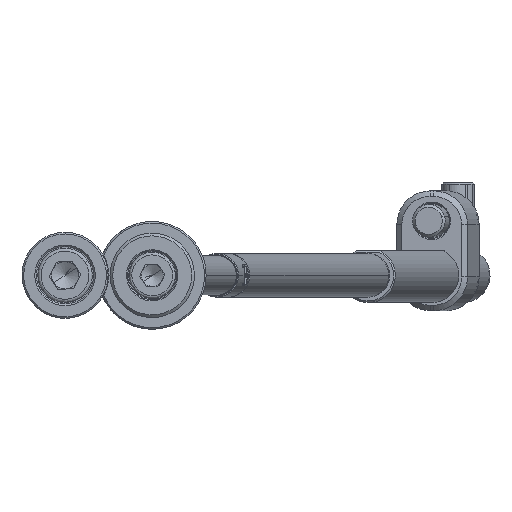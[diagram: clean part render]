
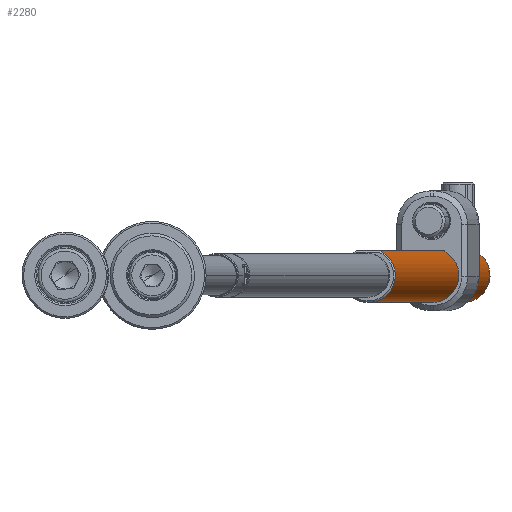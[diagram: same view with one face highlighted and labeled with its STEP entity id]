
A CAD part, front view. The second image highlights one B-rep face of the part: STEP entity #2280.
In plain terms, the highlighted cylindrical face has radius 5 mm (diameter 10 mm), a partial arc.
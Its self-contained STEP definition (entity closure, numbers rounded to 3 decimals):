
#34 = AXIS2_PLACEMENT_3D ( 'NONE', #6384, #4149, #1083 ) ;
#255 = CARTESIAN_POINT ( 'NONE',  ( 4.069, -2.906, 10.771 ) ) ;
#398 = CARTESIAN_POINT ( 'NONE',  ( 4.108, -2.851, 10.952 ) ) ;
#458 = CARTESIAN_POINT ( 'NONE',  ( 4.107, -2.852, 9.051 ) ) ;
#712 = VECTOR ( 'NONE', #3277, 1000. ) ;
#752 = EDGE_CURVE ( 'NONE', #3858, #12690, #7568, .T. ) ;
#829 = CARTESIAN_POINT ( 'NONE',  ( 4.5, -2.179, 7.938 ) ) ;
#864 = CARTESIAN_POINT ( 'NONE',  ( -5., 0., 0.3 ) ) ;
#1074 = ORIENTED_EDGE ( 'NONE', *, *, #4682, .T. ) ;
#1083 = DIRECTION ( 'NONE',  ( 1., 0., 0. ) ) ;
#1161 = VERTEX_POINT ( 'NONE', #10620 ) ;
#1316 = CARTESIAN_POINT ( 'NONE',  ( 4.202, -2.711, 8.701 ) ) ;
#2007 = LINE ( 'NONE', #11873, #712 ) ;
#2108 = ORIENTED_EDGE ( 'NONE', *, *, #12550, .F. ) ;
#2159 = VECTOR ( 'NONE', #3178, 1000. ) ;
#2280 = ADVANCED_FACE ( 'NONE', ( #4176 ), #6340, .T. ) ;
#2404 = CARTESIAN_POINT ( 'NONE',  ( 4.203, -2.709, 11.303 ) ) ;
#2528 = CARTESIAN_POINT ( 'NONE',  ( 4.376, -2.422, 8.22 ) ) ;
#2594 = CARTESIAN_POINT ( 'NONE',  ( 4.259, -2.621, 11.47 ) ) ;
#2810 = ORIENTED_EDGE ( 'NONE', *, *, #10079, .T. ) ;
#3093 = CARTESIAN_POINT ( 'NONE',  ( 0., 0., 200. ) ) ;
#3178 = DIRECTION ( 'NONE',  ( 0., 0., -1. ) ) ;
#3277 = DIRECTION ( 'NONE',  ( 0., 0., -1. ) ) ;
#3508 = DIRECTION ( 'NONE',  ( 1., 0., 0. ) ) ;
#3858 = VERTEX_POINT ( 'NONE', #864 ) ;
#4149 = DIRECTION ( 'NONE',  ( 0., 0., 1. ) ) ;
#4176 = FACE_OUTER_BOUND ( 'NONE', #8151, .T. ) ;
#4482 = AXIS2_PLACEMENT_3D ( 'NONE', #3093, #11898, #9726 ) ;
#4614 = CARTESIAN_POINT ( 'NONE',  ( 4.5, -2.179, 7.938 ) ) ;
#4682 = EDGE_CURVE ( 'NONE', #9511, #3858, #2007, .T. ) ;
#4805 = DIRECTION ( 'NONE',  ( 0., 0., -1. ) ) ;
#5573 = VECTOR ( 'NONE', #4805, 1000. ) ;
#5691 = CARTESIAN_POINT ( 'NONE',  ( 4., -3., 9.809 ) ) ;
#5765 = CARTESIAN_POINT ( 'NONE',  ( 4.014, -2.982, 9.617 ) ) ;
#5965 = CARTESIAN_POINT ( 'NONE',  ( 4.258, -2.623, 8.532 ) ) ;
#6167 = LINE ( 'NONE', #7116, #5573 ) ;
#6301 = EDGE_CURVE ( 'NONE', #10519, #12690, #6167, .T. ) ;
#6340 = CYLINDRICAL_SURFACE ( 'NONE', #4482, 5. ) ;
#6384 = CARTESIAN_POINT ( 'NONE',  ( 0., 0., 0.3 ) ) ;
#6785 = CARTESIAN_POINT ( 'NONE',  ( 4.5, -2.179, 12.062 ) ) ;
#6994 = CARTESIAN_POINT ( 'NONE',  ( 4.5, -2.179, 199.7 ) ) ;
#7116 = CARTESIAN_POINT ( 'NONE',  ( 4.5, -2.179, 200. ) ) ;
#7568 = CIRCLE ( 'NONE', #34, 5. ) ;
#7753 = B_SPLINE_CURVE_WITH_KNOTS ( 'NONE', 3,
 ( #6785, #9289, #12462, #2594, #2404, #398, #255, #11191, #9148, #5691, #5765, #10098, #458, #1316, #5965, #2528, #9090, #4614 ),
 .UNSPECIFIED., .F., .F.,
 ( 4, 2, 2, 2, 2, 2, 2, 2, 4 ),
 ( 0., 0.001, 0.001, 0.002, 0.002, 0.003, 0.003, 0.004, 0.005 ),
 .UNSPECIFIED. ) ;
#7878 = LINE ( 'NONE', #9900, #2159 ) ;
#8151 = EDGE_LOOP ( 'NONE', ( #2810, #1074, #8472, #11684, #2108, #11154 ) ) ;
#8192 = CARTESIAN_POINT ( 'NONE',  ( 4.5, -2.179, 0.3 ) ) ;
#8472 = ORIENTED_EDGE ( 'NONE', *, *, #752, .T. ) ;
#8980 = CARTESIAN_POINT ( 'NONE',  ( 0., 0., 199.7 ) ) ;
#9090 = CARTESIAN_POINT ( 'NONE',  ( 4.438, -2.308, 8.074 ) ) ;
#9148 = CARTESIAN_POINT ( 'NONE',  ( 4., -3., 10.198 ) ) ;
#9289 = CARTESIAN_POINT ( 'NONE',  ( 4.438, -2.307, 11.926 ) ) ;
#9357 = VERTEX_POINT ( 'NONE', #6994 ) ;
#9511 = VERTEX_POINT ( 'NONE', #10965 ) ;
#9726 = DIRECTION ( 'NONE',  ( -1., 0., 0. ) ) ;
#9823 = AXIS2_PLACEMENT_3D ( 'NONE', #8980, #13382, #3508 ) ;
#9900 = CARTESIAN_POINT ( 'NONE',  ( 4.5, -2.179, 200. ) ) ;
#10079 = EDGE_CURVE ( 'NONE', #9357, #9511, #13278, .T. ) ;
#10098 = CARTESIAN_POINT ( 'NONE',  ( 4.068, -2.908, 9.236 ) ) ;
#10519 = VERTEX_POINT ( 'NONE', #829 ) ;
#10620 = CARTESIAN_POINT ( 'NONE',  ( 4.5, -2.179, 12.062 ) ) ;
#10965 = CARTESIAN_POINT ( 'NONE',  ( -5., 0., 199.7 ) ) ;
#11154 = ORIENTED_EDGE ( 'NONE', *, *, #12136, .F. ) ;
#11191 = CARTESIAN_POINT ( 'NONE',  ( 4.015, -2.98, 10.396 ) ) ;
#11684 = ORIENTED_EDGE ( 'NONE', *, *, #6301, .F. ) ;
#11873 = CARTESIAN_POINT ( 'NONE',  ( -5., 0., 200. ) ) ;
#11898 = DIRECTION ( 'NONE',  ( 0., 0., -1. ) ) ;
#12136 = EDGE_CURVE ( 'NONE', #9357, #1161, #7878, .T. ) ;
#12462 = CARTESIAN_POINT ( 'NONE',  ( 4.376, -2.421, 11.781 ) ) ;
#12550 = EDGE_CURVE ( 'NONE', #1161, #10519, #7753, .T. ) ;
#12690 = VERTEX_POINT ( 'NONE', #8192 ) ;
#13278 = CIRCLE ( 'NONE', #9823, 5. ) ;
#13382 = DIRECTION ( 'NONE',  ( 0., 0., -1. ) ) ;
